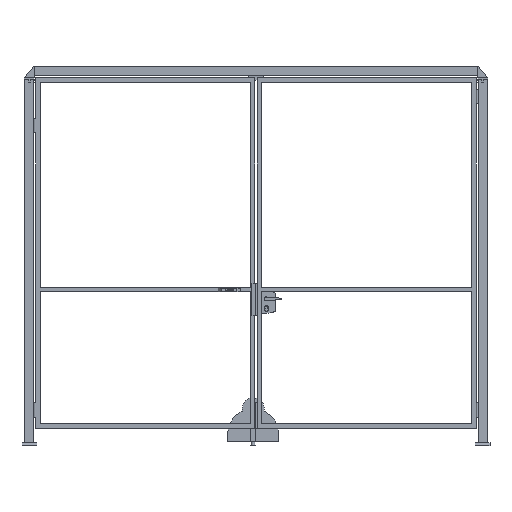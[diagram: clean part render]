
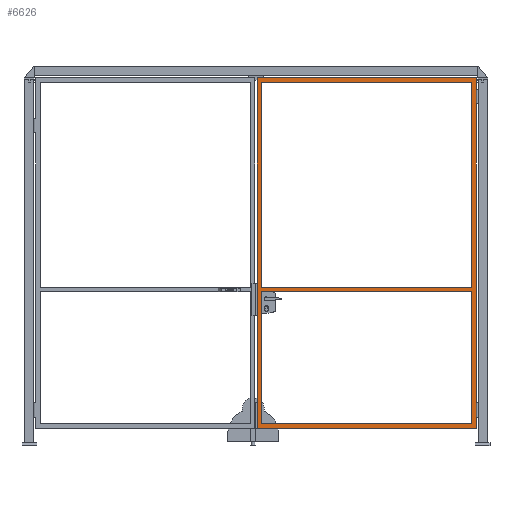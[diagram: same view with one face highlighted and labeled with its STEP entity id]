
A CAD part, front view. The second image highlights one B-rep face of the part: STEP entity #6626.
In plain terms, the highlighted planar face has unit normal (0, -1, 0) as drawn and (0, 1, 0) by its records, which use the part's own axes.
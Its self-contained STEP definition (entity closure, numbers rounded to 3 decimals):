
#855=FACE_BOUND('',#1339,.T.);
#856=FACE_BOUND('',#1340,.T.);
#999=FACE_OUTER_BOUND('',#1338,.T.);
#1338=EDGE_LOOP('',(#5135,#5136,#5137,#5138));
#1339=EDGE_LOOP('',(#5139,#5140,#5141,#5142));
#1340=EDGE_LOOP('',(#5143,#5144,#5145,#5146));
#1836=LINE('',#9826,#2604);
#1838=LINE('',#9832,#2606);
#1843=LINE('',#9841,#2611);
#1853=LINE('',#9861,#2621);
#1857=LINE('',#9868,#2625);
#1858=LINE('',#9870,#2626);
#1859=LINE('',#9872,#2627);
#1860=LINE('',#9874,#2628);
#1862=LINE('',#9879,#2630);
#1866=LINE('',#9886,#2634);
#1867=LINE('',#9888,#2635);
#1868=LINE('',#9890,#2636);
#2604=VECTOR('',#7880,1.);
#2606=VECTOR('',#7884,1.);
#2611=VECTOR('',#7891,1.);
#2621=VECTOR('',#7905,1.);
#2625=VECTOR('',#7911,1.);
#2626=VECTOR('',#7914,1.);
#2627=VECTOR('',#7917,1.);
#2628=VECTOR('',#7920,1.);
#2630=VECTOR('',#7924,1.);
#2634=VECTOR('',#7930,1.);
#2635=VECTOR('',#7933,1.);
#2636=VECTOR('',#7936,1.);
#3299=VERTEX_POINT('',#9820);
#3301=VERTEX_POINT('',#9824);
#3302=VERTEX_POINT('',#9828);
#3304=VERTEX_POINT('',#9831);
#3307=VERTEX_POINT('',#9839);
#3315=VERTEX_POINT('',#9860);
#3316=VERTEX_POINT('',#9864);
#3317=VERTEX_POINT('',#9866);
#3318=VERTEX_POINT('',#9876);
#3319=VERTEX_POINT('',#9878);
#3320=VERTEX_POINT('',#9882);
#3321=VERTEX_POINT('',#9884);
#3991=EDGE_CURVE('',#3301,#3299,#1836,.T.);
#3993=EDGE_CURVE('',#3302,#3304,#1838,.T.);
#3998=EDGE_CURVE('',#3302,#3307,#1843,.T.);
#4008=EDGE_CURVE('',#3315,#3304,#1853,.T.);
#4012=EDGE_CURVE('',#3316,#3317,#1857,.T.);
#4013=EDGE_CURVE('',#3307,#3315,#1858,.T.);
#4014=EDGE_CURVE('',#3317,#3299,#1859,.T.);
#4015=EDGE_CURVE('',#3301,#3316,#1860,.T.);
#4017=EDGE_CURVE('',#3318,#3319,#1862,.T.);
#4021=EDGE_CURVE('',#3321,#3320,#1866,.T.);
#4022=EDGE_CURVE('',#3319,#3321,#1867,.T.);
#4023=EDGE_CURVE('',#3318,#3320,#1868,.T.);
#5135=ORIENTED_EDGE('',*,*,#4022,.F.);
#5136=ORIENTED_EDGE('',*,*,#4017,.F.);
#5137=ORIENTED_EDGE('',*,*,#4023,.T.);
#5138=ORIENTED_EDGE('',*,*,#4021,.F.);
#5139=ORIENTED_EDGE('',*,*,#3998,.T.);
#5140=ORIENTED_EDGE('',*,*,#4013,.T.);
#5141=ORIENTED_EDGE('',*,*,#4008,.T.);
#5142=ORIENTED_EDGE('',*,*,#3993,.F.);
#5143=ORIENTED_EDGE('',*,*,#3991,.F.);
#5144=ORIENTED_EDGE('',*,*,#4015,.T.);
#5145=ORIENTED_EDGE('',*,*,#4012,.T.);
#5146=ORIENTED_EDGE('',*,*,#4014,.T.);
#6368=PLANE('',#7015);
#6626=ADVANCED_FACE('',(#999,#855,#856),#6368,.F.);
#7015=AXIS2_PLACEMENT_3D('',#9889,#7934,#7935);
#7880=DIRECTION('',(-1.,0.,0.));
#7884=DIRECTION('',(1.,0.,0.));
#7891=DIRECTION('',(0.,0.,-1.));
#7905=DIRECTION('',(0.,0.,1.));
#7911=DIRECTION('',(-1.,0.,0.));
#7914=DIRECTION('',(1.,0.,0.));
#7917=DIRECTION('',(0.,0.,-1.));
#7920=DIRECTION('',(0.,0.,1.));
#7924=DIRECTION('',(-1.,0.,0.));
#7930=DIRECTION('',(1.,0.,0.));
#7933=DIRECTION('',(0.,0.,-1.));
#7934=DIRECTION('center_axis',(0.,-1.,0.));
#7935=DIRECTION('ref_axis',(0.,0.,-1.));
#7936=DIRECTION('',(0.,0.,-1.));
#9820=CARTESIAN_POINT('',(30.,30.,965.));
#9824=CARTESIAN_POINT('',(1470.,30.,965.));
#9826=CARTESIAN_POINT('',(750.,30.,965.));
#9828=CARTESIAN_POINT('',(30.,30.,935.));
#9831=CARTESIAN_POINT('',(1470.,30.,935.));
#9832=CARTESIAN_POINT('',(750.,30.,935.));
#9839=CARTESIAN_POINT('',(30.,30.,30.));
#9841=CARTESIAN_POINT('',(30.,30.,1200.));
#9860=CARTESIAN_POINT('',(1470.,30.,30.));
#9861=CARTESIAN_POINT('',(1470.,30.,1200.));
#9864=CARTESIAN_POINT('',(1470.,30.,2370.));
#9866=CARTESIAN_POINT('',(30.,30.,2370.));
#9868=CARTESIAN_POINT('',(750.,30.,2370.));
#9870=CARTESIAN_POINT('',(750.,30.,30.));
#9872=CARTESIAN_POINT('',(30.,30.,1200.));
#9874=CARTESIAN_POINT('',(1470.,30.,1200.));
#9876=CARTESIAN_POINT('',(1500.,30.,2400.));
#9878=CARTESIAN_POINT('',(0.,30.,2400.));
#9879=CARTESIAN_POINT('',(750.,30.,2400.));
#9882=CARTESIAN_POINT('',(1500.,30.,0.));
#9884=CARTESIAN_POINT('',(0.,30.,0.));
#9886=CARTESIAN_POINT('',(750.,30.,0.));
#9888=CARTESIAN_POINT('',(0.,30.,1200.));
#9889=CARTESIAN_POINT('Origin',(750.,30.,1200.));
#9890=CARTESIAN_POINT('',(1500.,30.,1200.));
